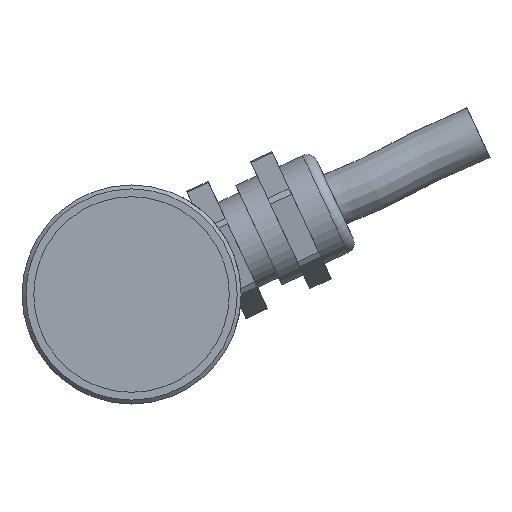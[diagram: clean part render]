
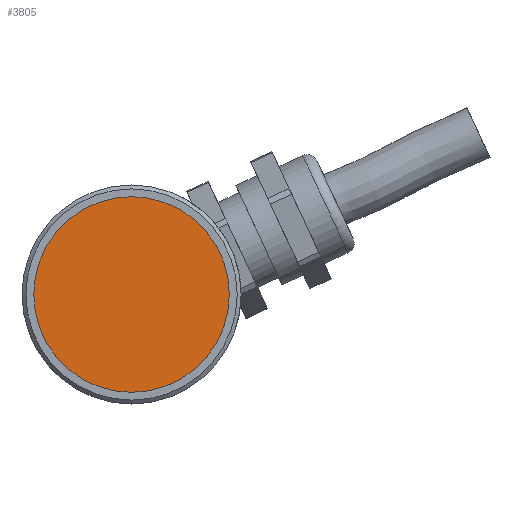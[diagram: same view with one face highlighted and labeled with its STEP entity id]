
A CAD part, left-side view. The second image highlights one B-rep face of the part: STEP entity #3805.
In plain terms, the highlighted planar face has unit normal (-1, 0, 0).
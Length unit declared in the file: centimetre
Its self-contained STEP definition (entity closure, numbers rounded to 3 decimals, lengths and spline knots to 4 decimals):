
#1497=VERTEX_POINT('',#5528);
#1726=CIRCLE('',#4063,1.25);
#2007=EDGE_CURVE('',#1497,#1497,#1726,.T.);
#2704=ORIENTED_EDGE('',*,*,#2007,.T.);
#3360=EDGE_LOOP('',(#2704));
#3592=FACE_BOUND('',#3360,.T.);
#3805=ADVANCED_FACE('',(#3592),#6577,.F.);
#4063=AXIS2_PLACEMENT_3D('',#5527,#4588,#4589);
#4064=AXIS2_PLACEMENT_3D('',#5529,#4590,$);
#4588=DIRECTION('',(-1.,0.,0.));
#4589=DIRECTION('',(0.,0.,-1.25));
#4590=DIRECTION('',(1.,0.,0.));
#5527=CARTESIAN_POINT('',(-3.9,0.,0.));
#5528=CARTESIAN_POINT('',(-3.9,0.,-1.25));
#5529=CARTESIAN_POINT('',(-3.9,0.,0.));
#6577=PLANE('',#4064);
